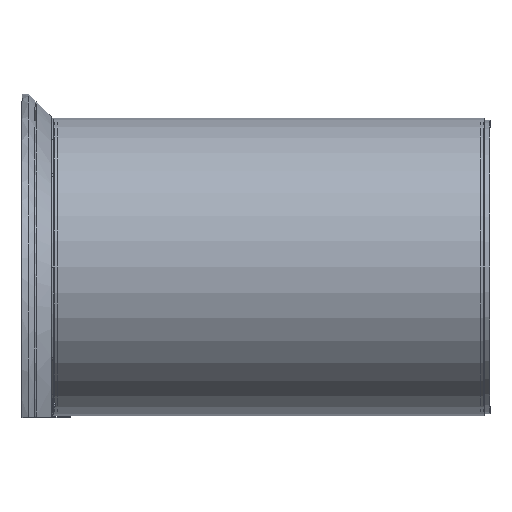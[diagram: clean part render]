
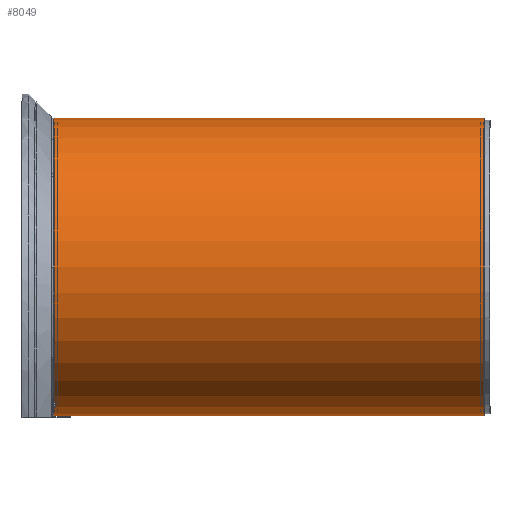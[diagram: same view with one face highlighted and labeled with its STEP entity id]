
A CAD part, left-side view. The second image highlights one B-rep face of the part: STEP entity #8049.
In plain terms, the highlighted cylindrical face has radius 230 mm (diameter 460 mm), a partial arc.
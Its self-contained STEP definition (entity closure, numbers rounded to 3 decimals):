
#43 = DIRECTION ( 'NONE',  ( 0., 0., 1. ) ) ;
#65 = ORIENTED_EDGE ( 'NONE', *, *, #273, .T. ) ;
#273 = EDGE_CURVE ( 'NONE', #3001, #10102, #7508, .T. ) ;
#453 = ORIENTED_EDGE ( 'NONE', *, *, #3222, .F. ) ;
#496 = LINE ( 'NONE', #8317, #5717 ) ;
#1398 = DIRECTION ( 'NONE',  ( 0., -1., 0. ) ) ;
#1574 = DIRECTION ( 'NONE',  ( 0., 1., 0. ) ) ;
#1613 = EDGE_CURVE ( 'NONE', #2937, #10102, #11972, .T. ) ;
#2328 = CARTESIAN_POINT ( 'NONE',  ( 2., 665., 0. ) ) ;
#2661 = CIRCLE ( 'NONE', #4268, 230. ) ;
#2937 = VERTEX_POINT ( 'NONE', #5861 ) ;
#3001 = VERTEX_POINT ( 'NONE', #9868 ) ;
#3222 = EDGE_CURVE ( 'NONE', #6734, #2937, #2661, .T. ) ;
#3503 = ORIENTED_EDGE ( 'NONE', *, *, #5347, .T. ) ;
#4268 = AXIS2_PLACEMENT_3D ( 'NONE', #2328, #1574, #6193 ) ;
#4315 = AXIS2_PLACEMENT_3D ( 'NONE', #8222, #12074, #11057 ) ;
#5258 = EDGE_LOOP ( 'NONE', ( #65, #7193, #453, #3503 ) ) ;
#5347 = EDGE_CURVE ( 'NONE', #6734, #3001, #496, .T. ) ;
#5717 = VECTOR ( 'NONE', #7490, 1000. ) ;
#5861 = CARTESIAN_POINT ( 'NONE',  ( 2., 665., -230. ) ) ;
#6193 = DIRECTION ( 'NONE',  ( 0., 0., 1. ) ) ;
#6439 = FACE_OUTER_BOUND ( 'NONE', #5258, .T. ) ;
#6734 = VERTEX_POINT ( 'NONE', #11434 ) ;
#7193 = ORIENTED_EDGE ( 'NONE', *, *, #1613, .F. ) ;
#7352 = CARTESIAN_POINT ( 'NONE',  ( 2., 0., -230. ) ) ;
#7490 = DIRECTION ( 'NONE',  ( 0., -1., 0. ) ) ;
#7508 = CIRCLE ( 'NONE', #7703, 230. ) ;
#7703 = AXIS2_PLACEMENT_3D ( 'NONE', #10650, #9652, #43 ) ;
#8049 = ADVANCED_FACE ( 'NONE', ( #6439 ), #12011, .T. ) ;
#8222 = CARTESIAN_POINT ( 'NONE',  ( 2., 665., 0. ) ) ;
#8317 = CARTESIAN_POINT ( 'NONE',  ( 2., 665., 230. ) ) ;
#8880 = CARTESIAN_POINT ( 'NONE',  ( 2., 665., -230. ) ) ;
#9652 = DIRECTION ( 'NONE',  ( 0., 1., 0. ) ) ;
#9868 = CARTESIAN_POINT ( 'NONE',  ( 2., 0., 230. ) ) ;
#10102 = VERTEX_POINT ( 'NONE', #7352 ) ;
#10264 = VECTOR ( 'NONE', #1398, 1000. ) ;
#10650 = CARTESIAN_POINT ( 'NONE',  ( 2., 0., 0. ) ) ;
#11057 = DIRECTION ( 'NONE',  ( 0., 0., -1. ) ) ;
#11434 = CARTESIAN_POINT ( 'NONE',  ( 2., 665., 230. ) ) ;
#11972 = LINE ( 'NONE', #8880, #10264 ) ;
#12011 = CYLINDRICAL_SURFACE ( 'NONE', #4315, 230. ) ;
#12074 = DIRECTION ( 'NONE',  ( 0., -1., 0. ) ) ;
